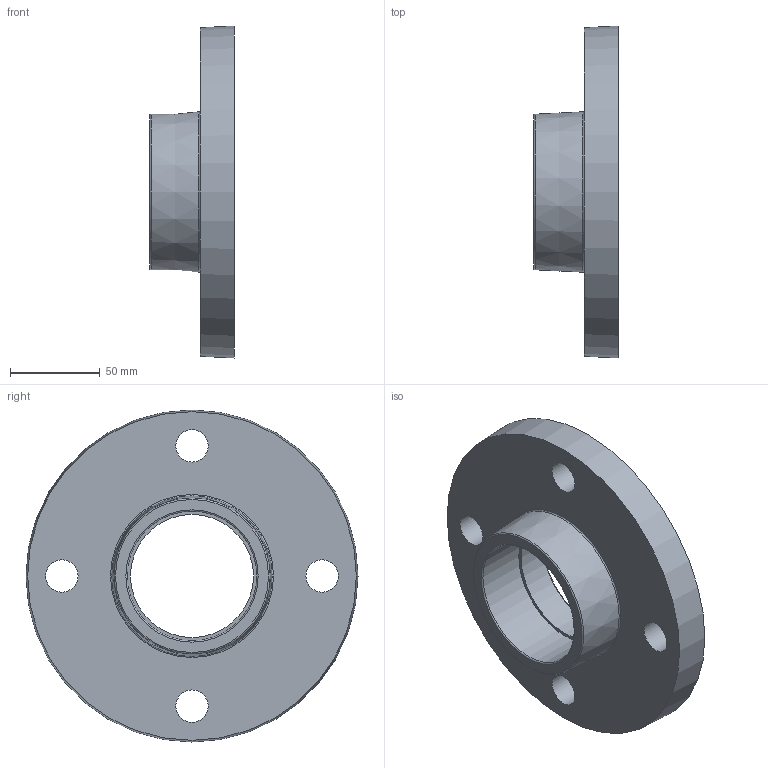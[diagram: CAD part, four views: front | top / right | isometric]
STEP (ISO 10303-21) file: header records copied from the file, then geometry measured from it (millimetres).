
FILE_DESCRIPTION(/* description */ ('PLASSON THR. FIXED FLANGE PVC 2.1/2"'),/* implementation_level */ '2;1');
FILE_NAME(/* name */ 'C:\Dropbox\KIMPROJECTS-Inventor\99-16-3568-Processing\PVC Catalog 2017\059201\059201025.ipt.stp',/* time_stamp */ '2017-12-07T16:07:32+02:00',/* author */ ('KIM'),/* organization */ (''),/* preprocessor_version */ 'ST-DEVELOPER v15.6',/* originating_system */ 'Autodesk Inventor 2015',/* authorisation */ '');
FILE_SCHEMA (('AUTOMOTIVE_DESIGN { 1 0 10303 214 3 1 1 }'));
Length unit declared in the file: millimetre
Products named in the file (1): 059201025
Bounding box: 47 x 185 x 185 mm (x, y, z)
Volume: 471071.9 mm3; surface area: 77173.3 mm2
Topology: 1 solids, 1 shells, 28 faces, 50 edges, 32 vertices
Faces by surface type: cylinder 12, plane 10, torus 4, cone 2
Full cylindrical faces by diameter (mm): 18 x4, 68.615 x1, 71.909 x1, 72.226 x1, 73.759 x1, 75.609 x1, 77.459 x1, 79.309 x1, 81.159 x1
Entity records: 648 total; most frequent: DIRECTION 122, CARTESIAN_POINT 93, EDGE_LOOP 64, ORIENTED_EDGE 64, AXIS2_PLACEMENT_3D 61, FACE_BOUND 36, CIRCLE 32, VERTEX_POINT 32
